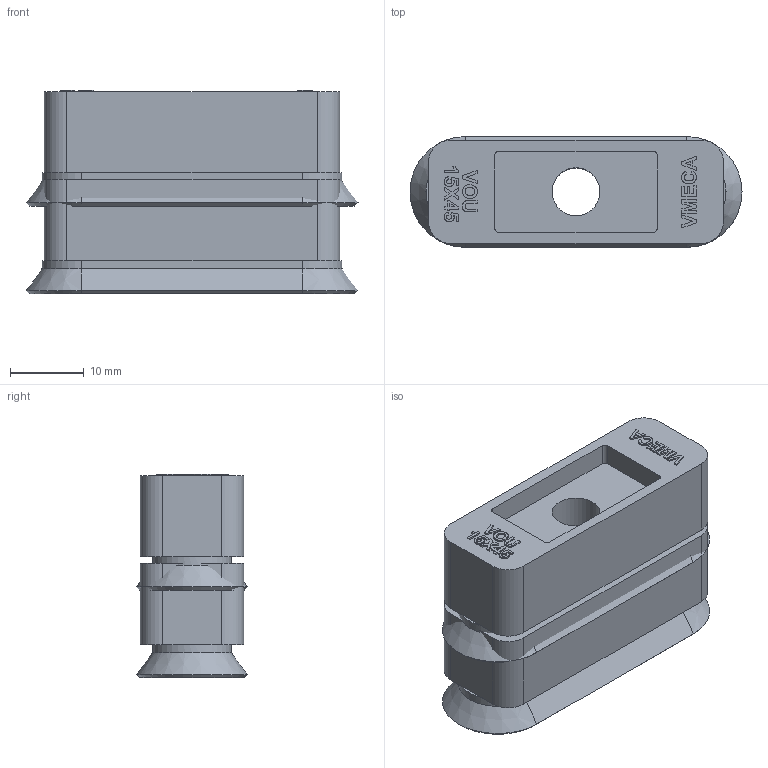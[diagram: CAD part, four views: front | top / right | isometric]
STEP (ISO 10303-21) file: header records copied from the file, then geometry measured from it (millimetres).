
FILE_DESCRIPTION( ( 'Unknown' ), '1' );
FILE_NAME( 'C:/Documents and Settings/Leeho/官帕 拳搁/VOU 15X45.stp', 'Unknown', ( 'Unknown' ), ( 'Unknown' ), 'PSStep 10.0', 'Unknown', ' ' );
FILE_SCHEMA( ( 'automotive_design' ) );
Length unit declared in the file: millimetre
Products named in the file (2): Assem1; 15X45_STP
Bounding box: 45 x 15 x 27.6 mm (x, y, z)
Volume: 14356.5 mm3; surface area: 6712 mm2
Topology: 2 solids, 2 shells, 326 faces, 840 edges, 552 vertices
Faces by surface type: extrusion 222, plane 74, cylinder 22, cone 8
Full cylindrical faces by diameter (mm): 6.5 x2
Entity records: 6882 total; most frequent: CARTESIAN_POINT 1790, ORIENTED_EDGE 834, DIRECTION 543, EDGE_CURVE 417, VECTOR 375, VERTEX_POINT 276, LINE 264, B_SPLINE_CURVE_WITH_KNOTS 234
